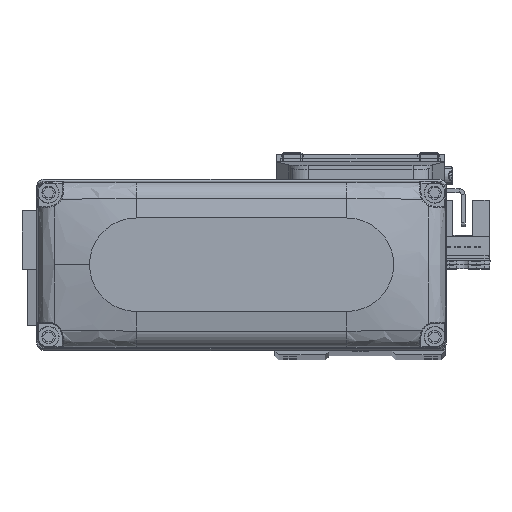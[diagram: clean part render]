
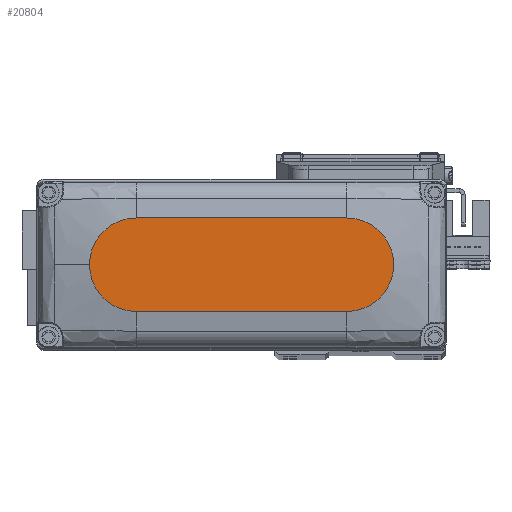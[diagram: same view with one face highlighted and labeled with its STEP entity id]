
A CAD part, top view. The second image highlights one B-rep face of the part: STEP entity #20804.
In plain terms, the highlighted planar face has unit normal (0, 0, 1).
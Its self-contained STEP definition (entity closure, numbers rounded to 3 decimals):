
#774 = DIRECTION ( 'NONE',  ( 1., 0., 0. ) ) ;
#1634 = CARTESIAN_POINT ( 'NONE',  ( 27., 12., 25. ) ) ;
#1944 = DIRECTION ( 'NONE',  ( 0., 0., 1. ) ) ;
#4098 = CIRCLE ( 'NONE', #26700, 12. ) ;
#6908 = VERTEX_POINT ( 'NONE', #1634 ) ;
#7350 = VERTEX_POINT ( 'NONE', #38614 ) ;
#7701 = VERTEX_POINT ( 'NONE', #31703 ) ;
#7857 = EDGE_CURVE ( 'NONE', #7701, #6908, #28286, .T. ) ;
#9181 = LINE ( 'NONE', #21514, #26295 ) ;
#9190 = DIRECTION ( 'NONE',  ( 0., 0., 1. ) ) ;
#10443 = CARTESIAN_POINT ( 'NONE',  ( 0., 0., 25. ) ) ;
#10848 = AXIS2_PLACEMENT_3D ( 'NONE', #29674, #1944, #14281 ) ;
#11432 = CARTESIAN_POINT ( 'NONE',  ( -27., 12., 25. ) ) ;
#11457 = CARTESIAN_POINT ( 'NONE',  ( -27., 12., 25. ) ) ;
#13992 = VECTOR ( 'NONE', #23775, 1000. ) ;
#14281 = DIRECTION ( 'NONE',  ( 1., 0., 0. ) ) ;
#14651 = CIRCLE ( 'NONE', #37235, 12. ) ;
#15087 = ORIENTED_EDGE ( 'NONE', *, *, #20298, .T. ) ;
#16169 = CARTESIAN_POINT ( 'NONE',  ( -27., 0., 25. ) ) ;
#19165 = ORIENTED_EDGE ( 'NONE', *, *, #23274, .T. ) ;
#20298 = EDGE_CURVE ( 'NONE', #38771, #7350, #4098, .T. ) ;
#20804 = ADVANCED_FACE ( 'NONE', ( #25820 ), #38153, .T. ) ;
#21514 = CARTESIAN_POINT ( 'NONE',  ( -27., -12., 25. ) ) ;
#21527 = DIRECTION ( 'NONE',  ( 1., 0., 0. ) ) ;
#22785 = DIRECTION ( 'NONE',  ( 0., 0., 1. ) ) ;
#23274 = EDGE_CURVE ( 'NONE', #29564, #7701, #14651, .T. ) ;
#23775 = DIRECTION ( 'NONE',  ( -1., 0., 0. ) ) ;
#24793 = AXIS2_PLACEMENT_3D ( 'NONE', #10443, #22785, #35121 ) ;
#25820 = FACE_OUTER_BOUND ( 'NONE', #35214, .T. ) ;
#26295 = VECTOR ( 'NONE', #33857, 1000. ) ;
#26700 = AXIS2_PLACEMENT_3D ( 'NONE', #16169, #28504, #774 ) ;
#27554 = CARTESIAN_POINT ( 'NONE',  ( 27., -12., 25. ) ) ;
#27844 = EDGE_CURVE ( 'NONE', #7350, #29564, #9181, .T. ) ;
#28286 = CIRCLE ( 'NONE', #10848, 12. ) ;
#28504 = DIRECTION ( 'NONE',  ( 0., 0., 1. ) ) ;
#28986 = EDGE_CURVE ( 'NONE', #6908, #38771, #39141, .T. ) ;
#29564 = VERTEX_POINT ( 'NONE', #27554 ) ;
#29674 = CARTESIAN_POINT ( 'NONE',  ( 27., 0., 25. ) ) ;
#31703 = CARTESIAN_POINT ( 'NONE',  ( 39., 0., 25. ) ) ;
#33857 = DIRECTION ( 'NONE',  ( 1., 0., 0. ) ) ;
#34111 = ORIENTED_EDGE ( 'NONE', *, *, #28986, .T. ) ;
#34254 = ORIENTED_EDGE ( 'NONE', *, *, #27844, .T. ) ;
#35121 = DIRECTION ( 'NONE',  ( 1., 0., 0. ) ) ;
#35214 = EDGE_LOOP ( 'NONE', ( #34111, #15087, #34254, #19165, #37957 ) ) ;
#36903 = CARTESIAN_POINT ( 'NONE',  ( 27., 0., 25. ) ) ;
#37235 = AXIS2_PLACEMENT_3D ( 'NONE', #36903, #9190, #21527 ) ;
#37957 = ORIENTED_EDGE ( 'NONE', *, *, #7857, .T. ) ;
#38153 = PLANE ( 'NONE',  #24793 ) ;
#38614 = CARTESIAN_POINT ( 'NONE',  ( -27., -12., 25. ) ) ;
#38771 = VERTEX_POINT ( 'NONE', #11457 ) ;
#39141 = LINE ( 'NONE', #11432, #13992 ) ;
